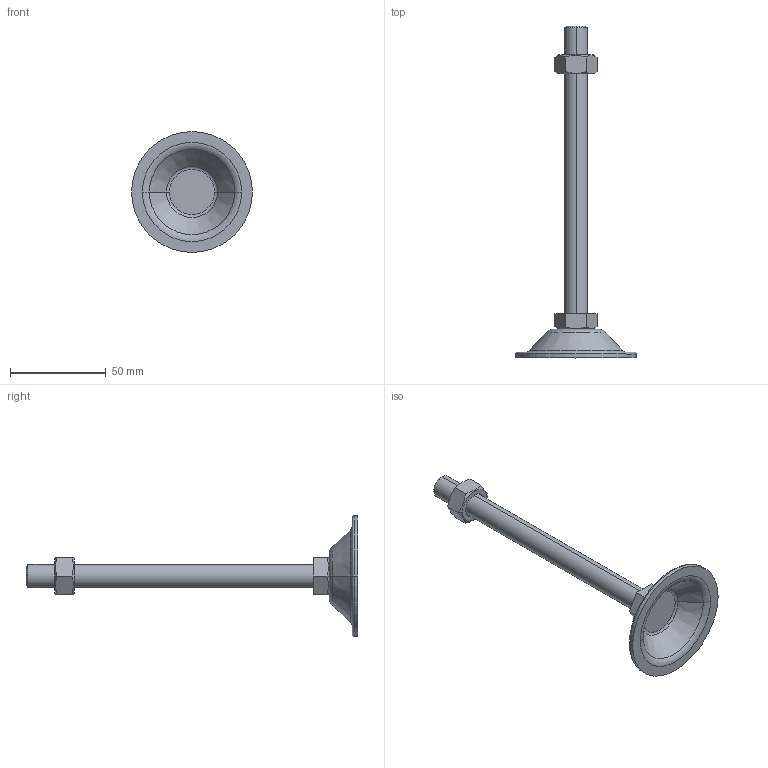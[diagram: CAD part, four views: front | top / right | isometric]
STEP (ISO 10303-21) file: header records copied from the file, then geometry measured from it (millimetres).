
FILE_DESCRIPTION (( 'STEP AP214' ), '1' );
FILE_NAME ('BL63-M12-150.step', '2021-01-06T05:38:08', ( '' ), ( '' ), 'SwSTEP 2.0', 'SolidWorks 2019', '' );
FILE_SCHEMA (( 'AUTOMOTIVE_DESIGN' ));
Length unit declared in the file: millimetre
Products named in the file (1): BL63-M12-150
Bounding box: 63 x 173 x 63 mm (x, y, z)
Volume: 32427.8 mm3; surface area: 16014.2 mm2
Topology: 3 solids, 3 shells, 53 faces, 110 edges, 66 vertices
Faces by surface type: plane 21, cone 16, torus 10, cylinder 6
Entity records: 1618 total; most frequent: CARTESIAN_POINT 428, DIRECTION 252, ORIENTED_EDGE 220, EDGE_CURVE 110, AXIS2_PLACEMENT_3D 106, VERTEX_POINT 66, EDGE_LOOP 58, ADVANCED_FACE 53
